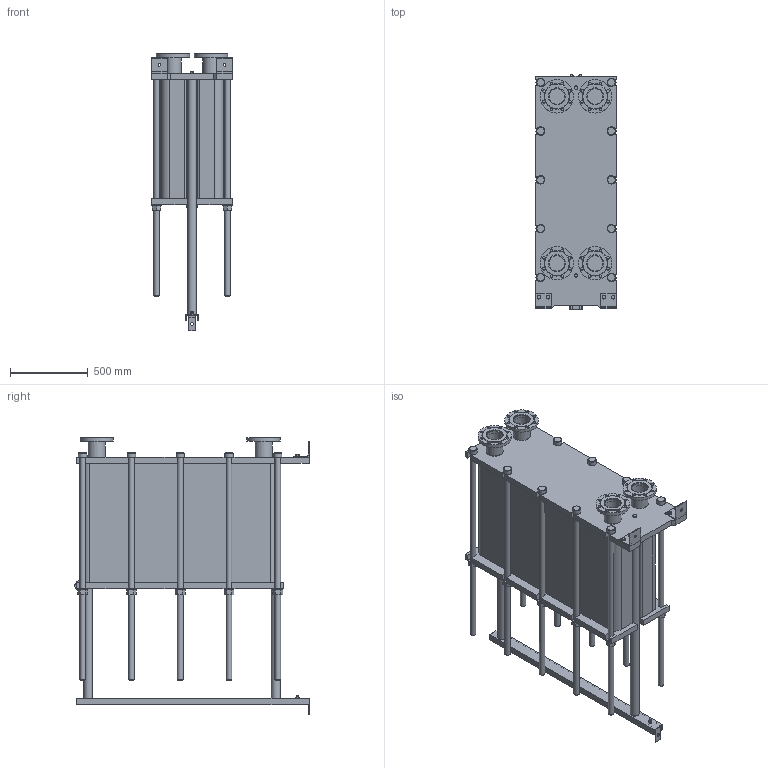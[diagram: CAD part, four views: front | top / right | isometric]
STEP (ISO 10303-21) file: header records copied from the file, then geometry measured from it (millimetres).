
FILE_DESCRIPTION(/* description */ (''),/* implementation_level */ '2;1');
FILE_NAME(/* name */ 'C:\Users\zhuro\Desktop\ENCO\TO\ЭН-04\ЭН-0,5-04-223-1.stp',/* time_stamp */ '2022-06-06T11:05:16+03:00',/* author */ ('zhuro'),/* organization */ (''),/* preprocessor_version */ 'ST-DEVELOPER v18.1',/* originating_system */ 'Autodesk Inventor 2022',/* authorisation */ '');
FILE_SCHEMA (('AUTOMOTIVE_DESIGN { 1 0 10303 214 3 1 1 }'));
Length unit declared in the file: millimetre
Products named in the file (1): ЭН-0,5-04-223-1
Bounding box: 520 x 1510 x 1791.5 mm (x, y, z)
Volume: 462314465.8 mm3; surface area: 11060043.6 mm2
Topology: 45 solids, 45 shells, 668 faces, 1611 edges, 1048 vertices
Faces by surface type: plane 457, cylinder 166, cone 39, torus 6
Full cylindrical faces by diameter (mm): 8 x4, 10 x2, 16 x8, 18 x35, 36 x25, 40 x2, 42 x1, 45 x4, 54 x10, 57 x2, 60 x10, 68 x2, 100 x4, 110 x8, 215 x4
Entity records: 23607 total; most frequent: CARTESIAN_POINT 7348, DIRECTION 3371, ORIENTED_EDGE 3142, EDGE_CURVE 1571, AXIS2_PLACEMENT_3D 1199, VERTEX_POINT 1044, LINE 973, VECTOR 973
